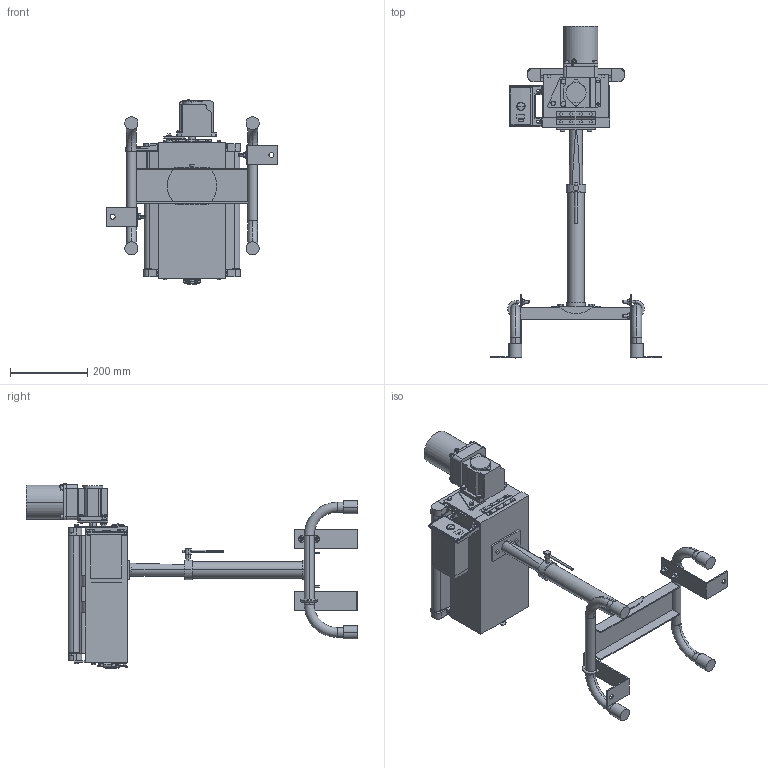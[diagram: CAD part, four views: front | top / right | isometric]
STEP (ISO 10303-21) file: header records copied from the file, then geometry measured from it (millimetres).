
FILE_DESCRIPTION (( 'STEP AP214' ), '1' );
FILE_NAME ('MMJ-HS-304-300-25-IV-75-O.STEP', '2024-06-20T09:22:26', ( '' ), ( '' ), 'SwSTEP 2.0', 'SolidWorks 2017', '' );
FILE_SCHEMA (( 'AUTOMOTIVE_DESIGN' ));
Length unit declared in the file: millimetre
Products named in the file (1): MMJ-HS-304-300-25-IV-75-O
Bounding box: 441.8 x 860 x 478.73 mm (x, y, z)
Volume: 12197662.3 mm3; surface area: 1595466.2 mm2
Topology: 36 solids, 36 shells, 1540 faces, 3721 edges, 2363 vertices
Faces by surface type: plane 987, cylinder 439, torus 38, cone 36, bspline 34, sphere 6
Entity records: 47987 total; most frequent: CARTESIAN_POINT 10488, DIRECTION 7718, ORIENTED_EDGE 7402, EDGE_CURVE 3701, AXIS2_PLACEMENT_3D 2665, VECTOR 2388, LINE 2388, VERTEX_POINT 2363
